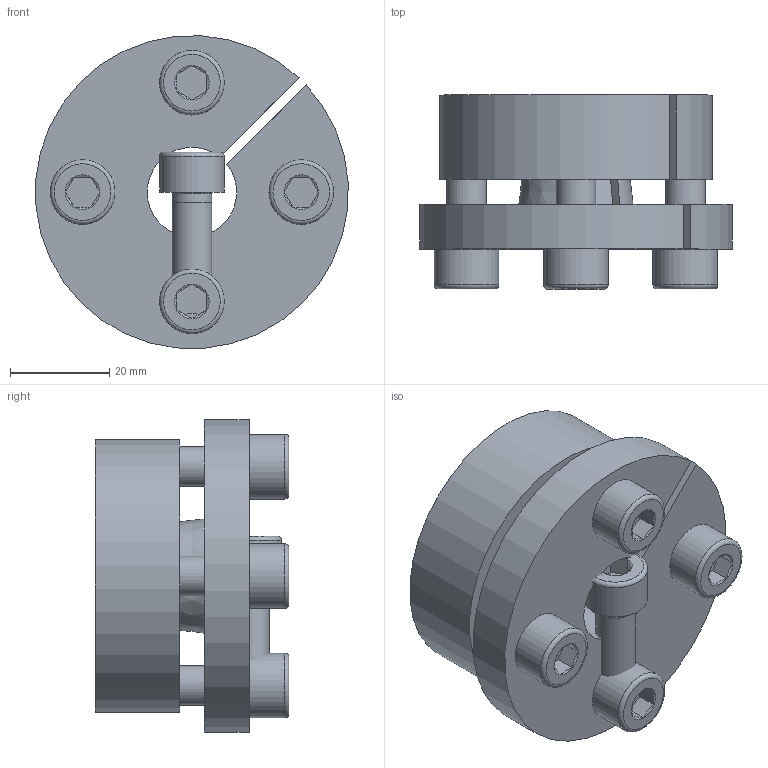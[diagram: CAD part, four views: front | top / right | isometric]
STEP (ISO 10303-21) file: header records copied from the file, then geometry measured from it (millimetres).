
FILE_DESCRIPTION( ( 'Unknown' ), '1' );
FILE_NAME( 'C:/Dokumente und Einstellungen/Sven/Desktop/15/KBS 15 - 18 x 55.stp', 'Unknown', ( 'Unknown' ), ( 'Unknown' ), 'XStep 1.0', 'Unknown', ' ' );
FILE_SCHEMA( ( 'automotive_design' ) );
Length unit declared in the file: millimetre
Products named in the file (3): Assem1; ISO EN DIN 4762 M8x25_1; KBS 15 - 18 x 55_0
Bounding box: 62.84 x 39 x 62.84 mm (x, y, z)
Volume: 124518 mm3; surface area: 44431.9 mm2
Topology: 7 solids, 7 shells, 165 faces, 342 edges, 211 vertices
Faces by surface type: plane 74, cylinder 42, cone 39, torus 10
Full cylindrical faces by diameter (mm): 6.647 x8, 7 x5, 8 x10, 9 x8, 13 x5
Entity records: 1434 total; most frequent: CARTESIAN_POINT 239, DIRECTION 220, ORIENTED_EDGE 162, AXIS2_PLACEMENT_3D 96, EDGE_CURVE 81, EDGE_LOOP 80, FACE_OUTER_BOUND 59, VERTEX_POINT 59
